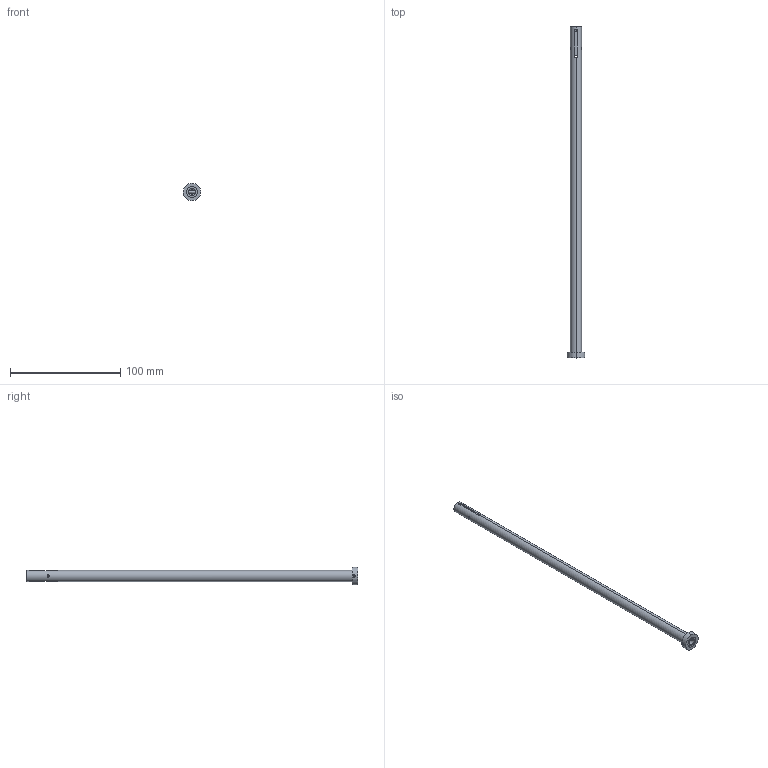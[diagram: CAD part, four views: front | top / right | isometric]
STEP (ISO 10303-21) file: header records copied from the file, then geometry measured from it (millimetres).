
FILE_DESCRIPTION (( 'STEP AP203' ), '1' );
FILE_NAME ('SGDE-1008x300.STEP', '2017-01-10T15:51:09', ( 'Balzi' ), ( '' ), 'SwSTEP 2.0', 'SolidWorks 2016', '' );
FILE_SCHEMA (( 'CONFIG_CONTROL_DESIGN' ));
Length unit declared in the file: millimetre
Products named in the file (1): SGDE-1008x300
Bounding box: 16 x 300.8 x 16 mm (x, y, z)
Volume: 15838.5 mm3; surface area: 16342.7 mm2
Topology: 1 solids, 1 shells, 84 faces, 234 edges, 154 vertices
Faces by surface type: cylinder 48, plane 32, cone 4
Entity records: 3309 total; most frequent: CARTESIAN_POINT 1073, ORIENTED_EDGE 468, DIRECTION 422, EDGE_CURVE 234, AXIS2_PLACEMENT_3D 155, VERTEX_POINT 154, VECTOR 112, LINE 112
